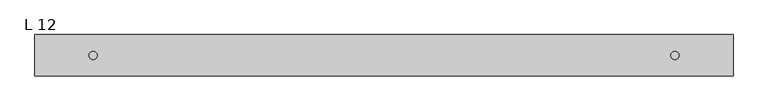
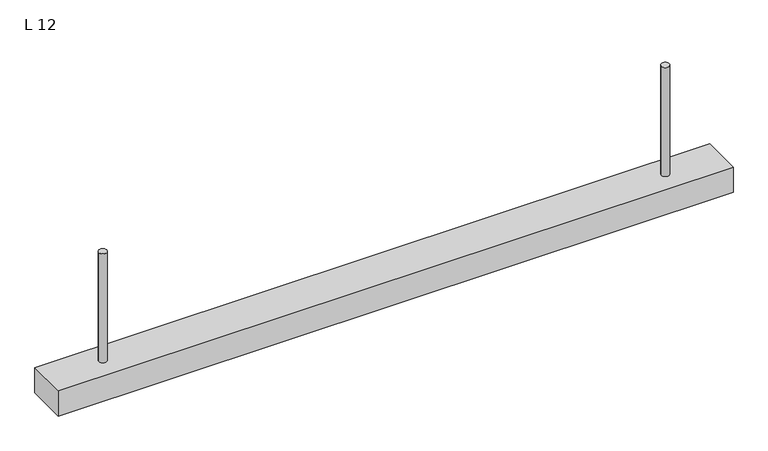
"""IFC4 building model written with IfcOpenShell, lengths in millimetres: light fixture geometry, ZYR_06.02.05 LLuminària Suspesa : L 12."""

from ifc_helpers import new_model, si_unit, point, frame, frame_2d, origin, origin_with_axes, place, context, project, spatial, polyline, circle_curve, trimmed, segment, composite_curve, outline, extrude, source, transform, mapped, element, save


def l_12_0d442a8d(model_context):
    return source(origin(), model_context, "Body", "SweptSolid", [
        extrude(outline(polyline([(840.0, 50.0), (840.0, -50.0), (-840.0, -50.0), (-840.0, 50.0), (840.0, 50.0)])), origin_with_axes(), (0.0, 0.0, 1.0), 67.0),
        extrude(outline(composite_curve([segment(trimmed(circle_curve(frame_2d((-700.0, 0.0)), 10.0), [point((-710.0, 0.0))], [point((-690.0, 0.0))], False, "CARTESIAN"), True, "CONTINUOUS"), segment(trimmed(circle_curve(frame_2d((-700.0, 0.0)), 10.0), [point((-690.0, 0.0))], [point((-710.0, 0.0))], False, "CARTESIAN"), True, "CONTINUOUS")], self_intersect=False)), frame((0.0, 0.0, 67.0), z_axis=(0.0, 0.0, 1.0), x_axis=(1.0, 0.0, 0.0)), (0.0, 0.0, 1.0), 287.0),
        extrude(outline(composite_curve([segment(trimmed(circle_curve(frame_2d((700.0, 0.0)), 10.0), [point((690.0, 0.0))], [point((710.0, 0.0))], False, "CARTESIAN"), True, "CONTINUOUS"), segment(trimmed(circle_curve(frame_2d((700.0, 0.0)), 10.0), [point((710.0, 0.0))], [point((690.0, 0.0))], False, "CARTESIAN"), True, "CONTINUOUS")], self_intersect=False)), frame((0.0, 0.0, 67.0), z_axis=(0.0, 0.0, 1.0), x_axis=(1.0, 0.0, 0.0)), (0.0, 0.0, 1.0), 287.0),
    ])


if __name__ == "__main__":
    model = new_model("IFC4")
    model_context = context("Model", 3, world=origin())
    ifc_project = project(units=[si_unit("LENGTHUNIT", "METRE", prefix="MILLI")], contexts=[model_context])
    site = spatial("IfcSite", under=ifc_project)
    building = spatial("IfcBuilding", under=site)
    placement = place(None, origin())
    l_12_shape = l_12_0d442a8d(model_context)
    element("IfcLightFixture", 1, ObjectType="ZYR_06.02.05 LLuminària Suspesa : L 12", at=placement, inside=building, context=model_context, shape_type="MappedRepresentation", body=[
        mapped(l_12_shape, transform((0.0, 0.0, 0.0), x_axis=(1.0, 0.0, 0.0), y_axis=(0.0, 1.0, 0.0), z_axis=(0.0, 0.0, 1.0))),
    ])
    save(model, "model.ifc")
